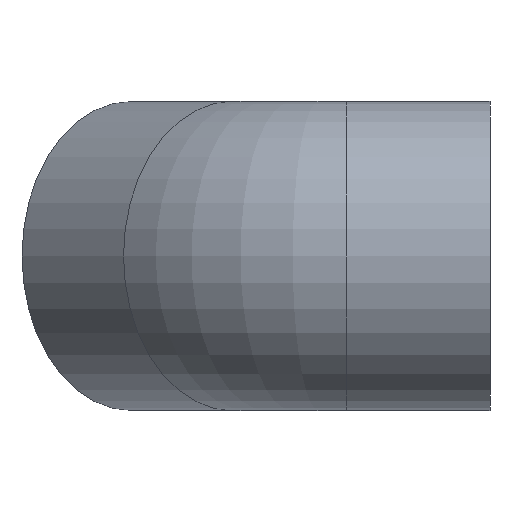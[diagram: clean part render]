
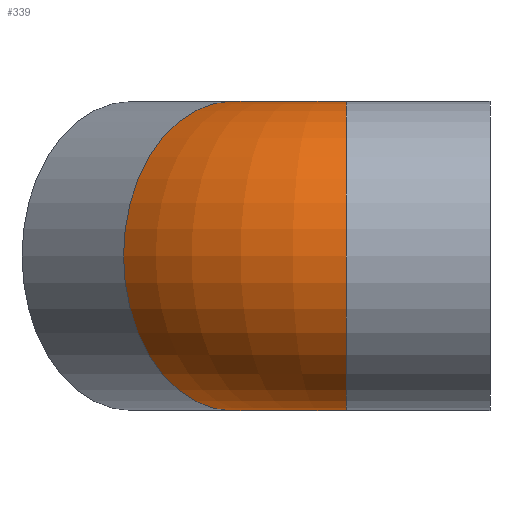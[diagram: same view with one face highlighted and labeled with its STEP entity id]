
A CAD part, left-side view. The second image highlights one B-rep face of the part: STEP entity #339.
In plain terms, the highlighted toroidal (fillet/blend) face has major radius 39 mm and minor radius 37.5 mm.
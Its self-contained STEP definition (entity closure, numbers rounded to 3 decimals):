
#16=TOROIDAL_SURFACE('',#369,39.,37.5);
#23=FACE_BOUND('',#102,.T.);
#71=FACE_OUTER_BOUND('',#101,.T.);
#101=EDGE_LOOP('',(#293));
#102=EDGE_LOOP('',(#294));
#122=CIRCLE('',#368,37.5);
#123=CIRCLE('',#370,37.5);
#174=VERTEX_POINT('',#9400);
#175=VERTEX_POINT('',#9403);
#218=EDGE_CURVE('',#174,#174,#122,.T.);
#219=EDGE_CURVE('',#175,#175,#123,.T.);
#293=ORIENTED_EDGE('',*,*,#218,.F.);
#294=ORIENTED_EDGE('',*,*,#219,.T.);
#339=ADVANCED_FACE('',(#71,#23),#16,.T.);
#368=AXIS2_PLACEMENT_3D('',#9401,#429,#430);
#369=AXIS2_PLACEMENT_3D('',#9402,#431,#432);
#370=AXIS2_PLACEMENT_3D('',#9404,#433,#434);
#429=DIRECTION('center_axis',(0.707,0.707,0.));
#430=DIRECTION('ref_axis',(0.707,-0.707,0.));
#431=DIRECTION('center_axis',(0.,0.,-1.));
#432=DIRECTION('ref_axis',(-1.,0.,0.));
#433=DIRECTION('center_axis',(0.,1.,0.));
#434=DIRECTION('ref_axis',(1.,0.,0.));
#9400=CARTESIAN_POINT('',(-15.094,88.939,0.));
#9401=CARTESIAN_POINT('Origin',(11.423,62.423,0.));
#9402=CARTESIAN_POINT('Origin',(39.,34.846,0.));
#9403=CARTESIAN_POINT('',(-37.5,34.846,0.));
#9404=CARTESIAN_POINT('Origin',(0.,34.846,0.));
